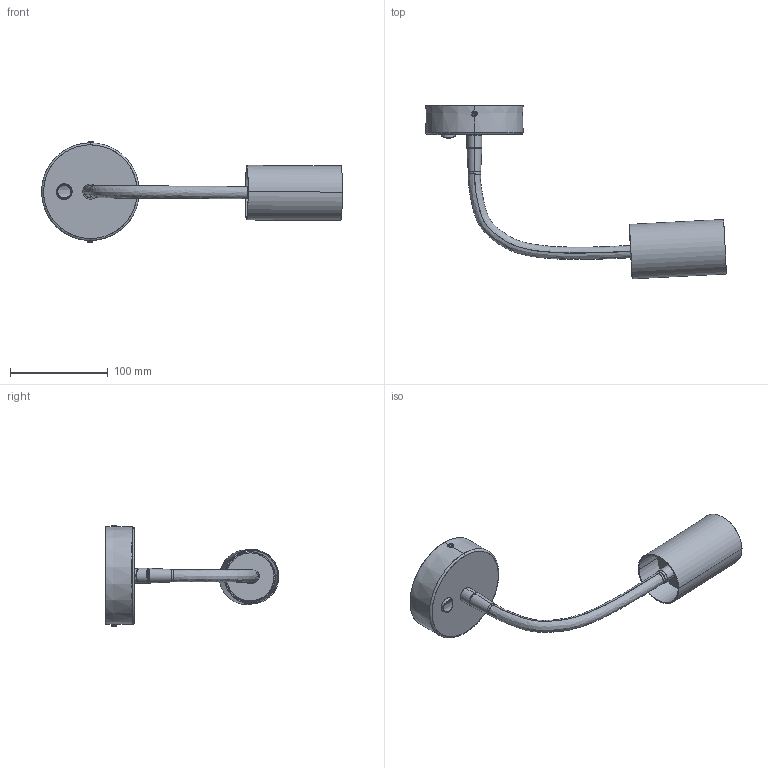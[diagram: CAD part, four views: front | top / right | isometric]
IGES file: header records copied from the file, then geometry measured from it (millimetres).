
Start section: SolidWorks IGES file using analytic representation for surfaces
Global section: file name: Z:\Modele 3D_WWW\_KOLEKCJE_WWW\EYE-FLEX-S-9070-9068-9067\EYE-FLEX-S-9070-9068-9067.IGS; native system: SolidWorks 2020; preprocessor: SolidWorks 2020; author: gabriela.tworek; date: 210223.072358; units: millimetre
Bounding box: 308.32 x 178.04 x 104.12 mm (x, y, z)
Surface area: 93923.7 mm2 (no closed solid volume)
Topology: 0 solids, 0 shells, 188 faces, 2824 edges, 2820 vertices
Faces by surface type: bspline 97, revolution 91
